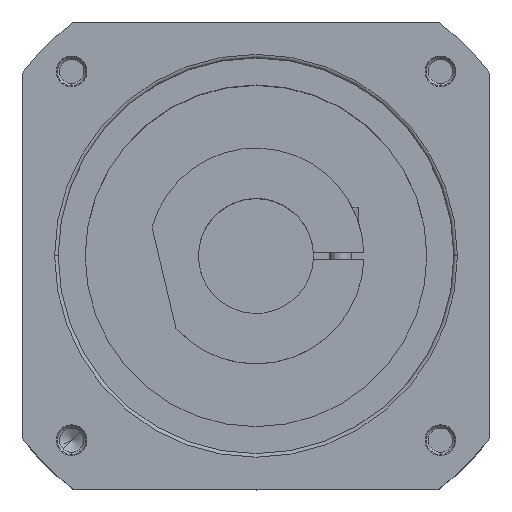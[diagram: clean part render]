
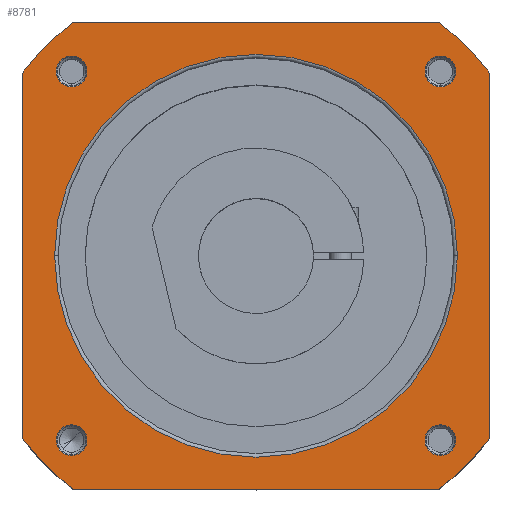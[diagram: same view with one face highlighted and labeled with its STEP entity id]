
A CAD part, top view. The second image highlights one B-rep face of the part: STEP entity #8781.
In plain terms, the highlighted planar face has unit normal (0, 0, 1) as drawn and (0, 1, 0) by its records, which use the part's own axes.
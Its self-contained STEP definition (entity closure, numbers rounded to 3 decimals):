
#7592=CARTESIAN_POINT('',(0.,81.,0.));
#7593=DIRECTION('',(0.,1.,0.));
#7594=DIRECTION('',(0.788,0.,-0.616));
#7595=AXIS2_PLACEMENT_3D('',#7592,#7593,#7594);
#7597=DIRECTION('',(0.,0.,-1.));
#7598=VECTOR('',#7597,101.612);
#7599=CARTESIAN_POINT('',(65.,81.,50.806));
#7600=LINE('',#7599,#7598);
#7601=CARTESIAN_POINT('',(0.,81.,0.));
#7602=DIRECTION('',(0.,1.,0.));
#7603=DIRECTION('',(0.616,0.,0.788));
#7604=AXIS2_PLACEMENT_3D('',#7601,#7602,#7603);
#7606=DIRECTION('',(1.,0.,0.));
#7607=VECTOR('',#7606,101.612);
#7608=CARTESIAN_POINT('',(-50.806,81.,65.));
#7609=LINE('',#7608,#7607);
#7610=CARTESIAN_POINT('',(0.,81.,0.));
#7611=DIRECTION('',(0.,1.,0.));
#7612=DIRECTION('',(-0.788,0.,0.616));
#7613=AXIS2_PLACEMENT_3D('',#7610,#7611,#7612);
#7615=DIRECTION('',(0.,0.,1.));
#7616=VECTOR('',#7615,101.612);
#7617=CARTESIAN_POINT('',(-65.,81.,-50.806));
#7618=LINE('',#7617,#7616);
#7619=CARTESIAN_POINT('',(0.,81.,0.));
#7620=DIRECTION('',(0.,1.,0.));
#7621=DIRECTION('',(-0.616,0.,-0.788));
#7622=AXIS2_PLACEMENT_3D('',#7619,#7620,#7621);
#7624=DIRECTION('',(-1.,0.,0.));
#7625=VECTOR('',#7624,101.612);
#7626=CARTESIAN_POINT('',(50.806,81.,-65.));
#7627=LINE('',#7626,#7625);
#7628=CARTESIAN_POINT('',(-51.265,81.,51.265));
#7629=DIRECTION('',(0.,-1.,0.));
#7630=DIRECTION('',(1.,0.,0.));
#7631=AXIS2_PLACEMENT_3D('',#7628,#7629,#7630);
#7638=CARTESIAN_POINT('',(-51.265,81.,51.265));
#7639=DIRECTION('',(0.,-1.,0.));
#7640=DIRECTION('',(-1.,0.,0.));
#7641=AXIS2_PLACEMENT_3D('',#7638,#7639,#7640);
#7674=CARTESIAN_POINT('',(-51.265,81.,-51.265));
#7675=DIRECTION('',(0.,-1.,0.));
#7676=DIRECTION('',(1.,0.,0.));
#7677=AXIS2_PLACEMENT_3D('',#7674,#7675,#7676);
#7684=CARTESIAN_POINT('',(-51.265,81.,-51.265));
#7685=DIRECTION('',(0.,-1.,0.));
#7686=DIRECTION('',(-1.,0.,0.));
#7687=AXIS2_PLACEMENT_3D('',#7684,#7685,#7686);
#7720=CARTESIAN_POINT('',(51.265,81.,-51.265));
#7721=DIRECTION('',(0.,-1.,0.));
#7722=DIRECTION('',(1.,0.,0.));
#7723=AXIS2_PLACEMENT_3D('',#7720,#7721,#7722);
#7730=CARTESIAN_POINT('',(51.265,81.,-51.265));
#7731=DIRECTION('',(0.,-1.,0.));
#7732=DIRECTION('',(-1.,0.,0.));
#7733=AXIS2_PLACEMENT_3D('',#7730,#7731,#7732);
#8116=CARTESIAN_POINT('',(51.265,81.,51.265));
#8117=DIRECTION('',(0.,-1.,0.));
#8118=DIRECTION('',(1.,0.,0.));
#8119=AXIS2_PLACEMENT_3D('',#8116,#8117,#8118);
#8126=CARTESIAN_POINT('',(51.265,81.,51.265));
#8127=DIRECTION('',(0.,-1.,0.));
#8128=DIRECTION('',(-1.,0.,0.));
#8129=AXIS2_PLACEMENT_3D('',#8126,#8127,#8128);
#8180=CARTESIAN_POINT('',(0.,81.,0.));
#8181=DIRECTION('',(0.,-1.,0.));
#8182=DIRECTION('',(0.,0.,1.));
#8183=AXIS2_PLACEMENT_3D('',#8180,#8181,#8182);
#8195=CARTESIAN_POINT('',(0.,81.,0.));
#8196=DIRECTION('',(0.,-1.,0.));
#8197=DIRECTION('',(0.,0.,-1.));
#8198=AXIS2_PLACEMENT_3D('',#8195,#8196,#8197);
#8449=CARTESIAN_POINT('',(-65.,81.,-50.806));
#8451=VERTEX_POINT('',#8449);
#8453=CARTESIAN_POINT('',(-65.,81.,50.806));
#8455=VERTEX_POINT('',#8453);
#8457=CARTESIAN_POINT('',(-50.806,81.,65.));
#8459=VERTEX_POINT('',#8457);
#8461=CARTESIAN_POINT('',(50.806,81.,65.));
#8463=VERTEX_POINT('',#8461);
#8465=CARTESIAN_POINT('',(65.,81.,-50.806));
#8467=VERTEX_POINT('',#8465);
#8469=CARTESIAN_POINT('',(65.,81.,50.806));
#8471=VERTEX_POINT('',#8469);
#8473=CARTESIAN_POINT('',(50.806,81.,-65.));
#8475=VERTEX_POINT('',#8473);
#8477=CARTESIAN_POINT('',(-50.806,81.,-65.));
#8479=VERTEX_POINT('',#8477);
#8506=CARTESIAN_POINT('',(55.54,81.,51.265));
#8507=CARTESIAN_POINT('',(46.99,81.,51.265));
#8508=VERTEX_POINT('',#8506);
#8509=VERTEX_POINT('',#8507);
#8514=CARTESIAN_POINT('',(-46.99,81.,51.265));
#8515=CARTESIAN_POINT('',(-55.54,81.,51.265));
#8516=VERTEX_POINT('',#8514);
#8517=VERTEX_POINT('',#8515);
#8522=CARTESIAN_POINT('',(-46.99,81.,-51.265));
#8523=CARTESIAN_POINT('',(-55.54,81.,-51.265));
#8524=VERTEX_POINT('',#8522);
#8525=VERTEX_POINT('',#8523);
#8530=CARTESIAN_POINT('',(55.54,81.,-51.265));
#8531=CARTESIAN_POINT('',(46.99,81.,-51.265));
#8532=VERTEX_POINT('',#8530);
#8533=VERTEX_POINT('',#8531);
#8570=CARTESIAN_POINT('',(0.,81.,56.));
#8571=CARTESIAN_POINT('',(0.,81.,-56.));
#8572=VERTEX_POINT('',#8570);
#8573=VERTEX_POINT('',#8571);
#8731=CARTESIAN_POINT('',(0.,81.,0.));
#8732=DIRECTION('',(0.,-1.,0.));
#8733=DIRECTION('',(-1.,0.,0.));
#8734=AXIS2_PLACEMENT_3D('',#8731,#8732,#8733);
#8735=PLANE('',#8734);
#8736=ORIENTED_EDGE('',*,*,#8700,.F.);
#8738=ORIENTED_EDGE('',*,*,#8737,.F.);
#8740=ORIENTED_EDGE('',*,*,#8739,.F.);
#8742=ORIENTED_EDGE('',*,*,#8741,.F.);
#8744=ORIENTED_EDGE('',*,*,#8743,.F.);
#8745=ORIENTED_EDGE('',*,*,#8715,.F.);
#8746=ORIENTED_EDGE('',*,*,#8688,.F.);
#8748=ORIENTED_EDGE('',*,*,#8747,.F.);
#8749=EDGE_LOOP('',(#8736,#8738,#8740,#8742,#8744,#8745,#8746,#8748));
#8750=FACE_OUTER_BOUND('',#8749,.F.);
#8752=ORIENTED_EDGE('',*,*,#8751,.F.);
#8754=ORIENTED_EDGE('',*,*,#8753,.F.);
#8755=EDGE_LOOP('',(#8752,#8754));
#8756=FACE_BOUND('',#8755,.F.);
#8758=ORIENTED_EDGE('',*,*,#8757,.F.);
#8760=ORIENTED_EDGE('',*,*,#8759,.F.);
#8761=EDGE_LOOP('',(#8758,#8760));
#8762=FACE_BOUND('',#8761,.F.);
#8764=ORIENTED_EDGE('',*,*,#8763,.F.);
#8766=ORIENTED_EDGE('',*,*,#8765,.F.);
#8767=EDGE_LOOP('',(#8764,#8766));
#8768=FACE_BOUND('',#8767,.F.);
#8770=ORIENTED_EDGE('',*,*,#8769,.F.);
#8772=ORIENTED_EDGE('',*,*,#8771,.F.);
#8773=EDGE_LOOP('',(#8770,#8772));
#8774=FACE_BOUND('',#8773,.F.);
#8776=ORIENTED_EDGE('',*,*,#8775,.F.);
#8778=ORIENTED_EDGE('',*,*,#8777,.F.);
#8779=EDGE_LOOP('',(#8776,#8778));
#8780=FACE_BOUND('',#8779,.F.);
#8781=ADVANCED_FACE('',(#8750,#8756,#8762,#8768,#8774,#8780),#8735,.F.);
#7596=CIRCLE('',#7595,82.5);
#7605=CIRCLE('',#7604,82.5);
#7614=CIRCLE('',#7613,82.5);
#7623=CIRCLE('',#7622,82.5);
#7632=CIRCLE('',#7631,4.275);
#7642=CIRCLE('',#7641,4.275);
#7678=CIRCLE('',#7677,4.275);
#7688=CIRCLE('',#7687,4.275);
#7724=CIRCLE('',#7723,4.275);
#7734=CIRCLE('',#7733,4.275);
#8120=CIRCLE('',#8119,4.275);
#8130=CIRCLE('',#8129,4.275);
#8184=CIRCLE('',#8183,56.);
#8199=CIRCLE('',#8198,56.);
#8688=EDGE_CURVE('',#8479,#8451,#7623,.T.);
#8700=EDGE_CURVE('',#8467,#8475,#7596,.T.);
#8715=EDGE_CURVE('',#8451,#8455,#7618,.T.);
#8737=EDGE_CURVE('',#8471,#8467,#7600,.T.);
#8739=EDGE_CURVE('',#8463,#8471,#7605,.T.);
#8741=EDGE_CURVE('',#8459,#8463,#7609,.T.);
#8743=EDGE_CURVE('',#8455,#8459,#7614,.T.);
#8747=EDGE_CURVE('',#8475,#8479,#7627,.T.);
#8751=EDGE_CURVE('',#8524,#8525,#7678,.T.);
#8753=EDGE_CURVE('',#8525,#8524,#7688,.T.);
#8757=EDGE_CURVE('',#8532,#8533,#7724,.T.);
#8759=EDGE_CURVE('',#8533,#8532,#7734,.T.);
#8763=EDGE_CURVE('',#8516,#8517,#7632,.T.);
#8765=EDGE_CURVE('',#8517,#8516,#7642,.T.);
#8769=EDGE_CURVE('',#8508,#8509,#8120,.T.);
#8771=EDGE_CURVE('',#8509,#8508,#8130,.T.);
#8775=EDGE_CURVE('',#8572,#8573,#8184,.T.);
#8777=EDGE_CURVE('',#8573,#8572,#8199,.T.);
